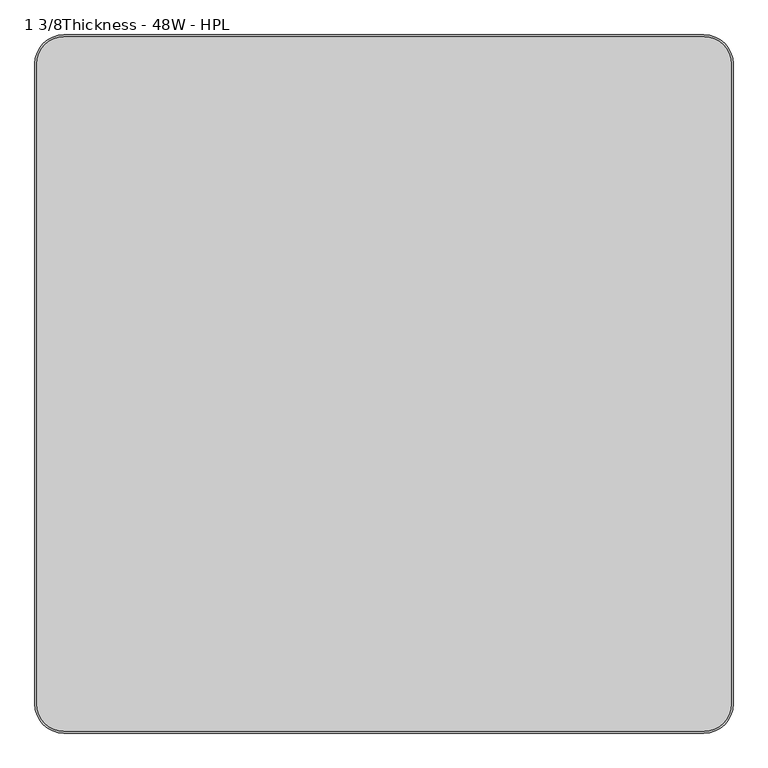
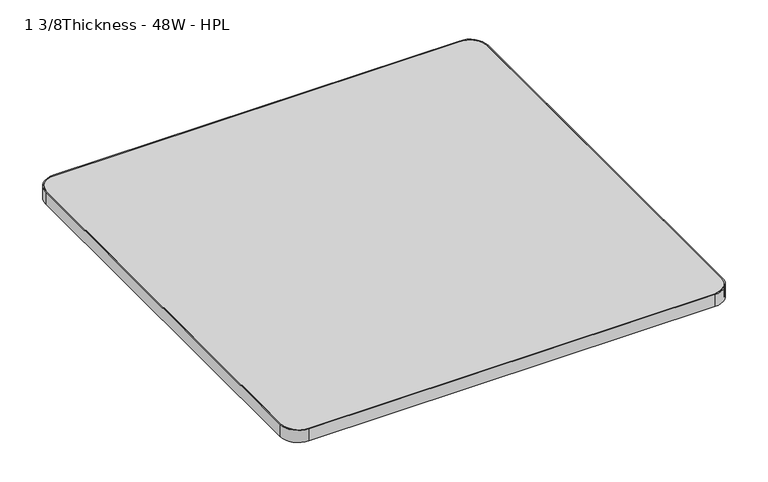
"""IFC4 building model written with IfcOpenShell, lengths in millimetres: furniture geometry, Steelcase - Groupwork - Table - Top - Square : 1 3/8Thickness - 48W - HPL."""

from ifc_helpers import new_model, si_unit, point, frame, frame_2d, origin, place, context, project, spatial, polyline, circle_curve, trimmed, segment, composite_curve, outline, extrude, source, transform, mapped, element, save


def furniture_1_3_8thickness_48w_hpl_64231320(model_context):
    return source(origin(), model_context, "Body", "SweptSolid", [
        extrude(outline(composite_curve([segment(polyline([(-587.248, 606.6), (530.448, 606.6)]), True, "CONTINUOUS"), segment(trimmed(circle_curve(frame_2d((530.448, 558.848)), 47.752), [point((530.448, 606.6))], [point((578.2, 558.848))], False, "CARTESIAN"), True, "CONTINUOUS"), segment(polyline([(578.2, 558.848), (578.2, -558.848)]), True, "CONTINUOUS"), segment(trimmed(circle_curve(frame_2d((530.448, -558.848)), 47.752), [point((578.2, -558.848))], [point((530.448, -606.6))], False, "CARTESIAN"), True, "CONTINUOUS"), segment(polyline([(530.448, -606.6), (-587.248, -606.6)]), True, "CONTINUOUS"), segment(trimmed(circle_curve(frame_2d((-587.248, -558.848)), 47.752), [point((-587.248, -606.6))], [point((-635.0, -558.848))], False, "CARTESIAN"), True, "CONTINUOUS"), segment(polyline([(-635.0, -558.848), (-635.0, 558.848)]), True, "CONTINUOUS"), segment(trimmed(circle_curve(frame_2d((-587.248, 558.848)), 47.752), [point((-635.0, 558.848))], [point((-587.248, 606.6))], False, "CARTESIAN"), True, "CONTINUOUS")], self_intersect=False)), frame((0.0, 0.0, 695.579), z_axis=(0.0, 0.0, 1.0), x_axis=(1.0, 0.0, 0.0)), (0.0, 0.0, 1.0), 35.052),
        extrude(outline(composite_curve([segment(trimmed(circle_curve(frame_2d((530.4, 558.8)), 50.8), [point((530.4, 609.6))], [point((581.2, 558.8))], False, "CARTESIAN"), True, "CONTINUOUS"), segment(polyline([(581.2, 558.8), (581.2, -558.8)]), True, "CONTINUOUS"), segment(trimmed(circle_curve(frame_2d((530.4, -558.8)), 50.8), [point((581.2, -558.8))], [point((530.4, -609.6))], False, "CARTESIAN"), True, "CONTINUOUS"), segment(polyline([(530.4, -609.6), (-587.2, -609.6)]), True, "CONTINUOUS"), segment(trimmed(circle_curve(frame_2d((-587.2, -558.8)), 50.8), [point((-587.2, -609.6))], [point((-638.0, -558.8))], False, "CARTESIAN"), True, "CONTINUOUS"), segment(polyline([(-638.0, -558.8), (-638.0, 558.8)]), True, "CONTINUOUS"), segment(trimmed(circle_curve(frame_2d((-587.2, 558.8)), 50.8), [point((-638.0, 558.8))], [point((-587.2, 609.6))], False, "CARTESIAN"), True, "CONTINUOUS"), segment(polyline([(-587.2, 609.6), (530.4, 609.6)]), True, "CONTINUOUS")], self_intersect=False), holes=[composite_curve([segment(polyline([(530.448, 606.6), (-587.248, 606.6)]), True, "CONTINUOUS"), segment(trimmed(circle_curve(frame_2d((-587.248, 558.848)), 47.752), [point((-587.248, 606.6))], [point((-635.0, 558.848))], True, "CARTESIAN"), True, "CONTINUOUS"), segment(polyline([(-635.0, 558.848), (-635.0, -558.848)]), True, "CONTINUOUS"), segment(trimmed(circle_curve(frame_2d((-587.248, -558.848)), 47.752), [point((-635.0, -558.848))], [point((-587.248, -606.6))], True, "CARTESIAN"), True, "CONTINUOUS"), segment(polyline([(-587.248, -606.6), (530.448, -606.6)]), True, "CONTINUOUS"), segment(trimmed(circle_curve(frame_2d((530.448, -558.848)), 47.752), [point((530.448, -606.6))], [point((578.2, -558.848))], True, "CARTESIAN"), True, "CONTINUOUS"), segment(polyline([(578.2, -558.848), (578.2, 558.848)]), True, "CONTINUOUS"), segment(trimmed(circle_curve(frame_2d((530.448, 558.848)), 47.752), [point((578.2, 558.848))], [point((530.448, 606.6))], True, "CARTESIAN"), True, "CONTINUOUS")], self_intersect=False)]), frame((0.0, 0.0, 695.579), z_axis=(0.0, 0.0, 1.0), x_axis=(1.0, 0.0, 0.0)), (0.0, 0.0, 1.0), 35.052),
    ])


if __name__ == "__main__":
    model = new_model("IFC4")
    model_context = context("Model", 3, world=origin())
    ifc_project = project(units=[si_unit("LENGTHUNIT", "METRE", prefix="MILLI")], contexts=[model_context])
    site = spatial("IfcSite", under=ifc_project)
    building = spatial("IfcBuilding", under=site)
    placement = place(None, origin())
    furniture_1_3_8thickness_48w_hpl_shape = furniture_1_3_8thickness_48w_hpl_64231320(model_context)
    element("IfcFurniture", 1, ObjectType="Steelcase - Groupwork - Table - Top - Square : 1 3/8Thickness - 48W - HPL", at=placement, inside=building, context=model_context, shape_type="MappedRepresentation", body=[
        mapped(furniture_1_3_8thickness_48w_hpl_shape, transform((0.0, 0.0, 0.0), x_axis=(1.0, 0.0, 0.0), y_axis=(0.0, 1.0, 0.0), z_axis=(0.0, 0.0, 1.0))),
    ])
    save(model, "model.ifc")
